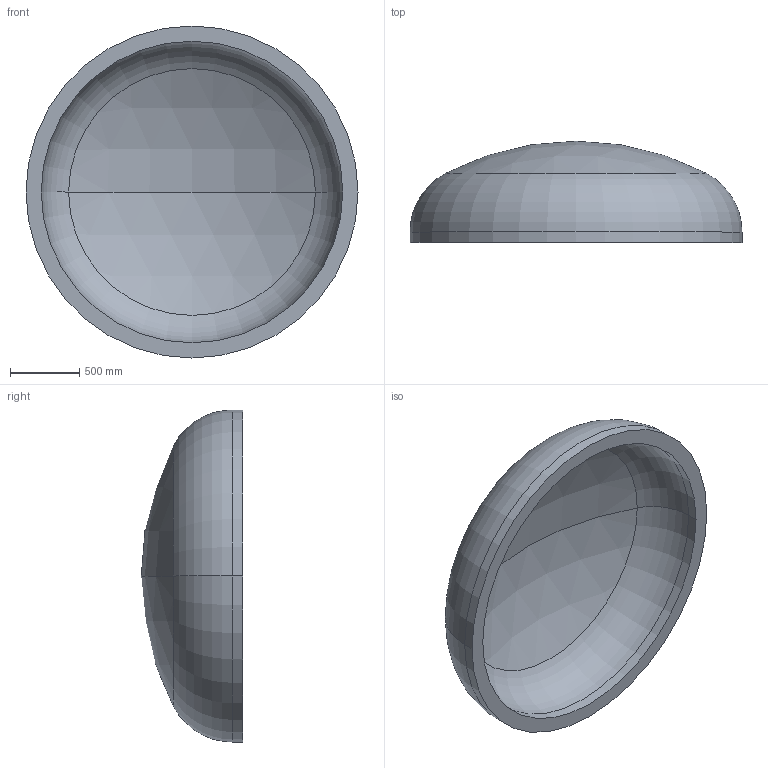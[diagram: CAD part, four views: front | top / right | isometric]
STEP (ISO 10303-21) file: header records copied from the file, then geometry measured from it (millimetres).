
FILE_DESCRIPTION (( 'STEP AP203' ), '1' );
FILE_NAME ('DIN 28013 Korbbogenform_-_Boden DIN 28013 - 2400 x 75 - I - s=110.step', '2016-07-01T15:44:58', ( '' ), ( '' ), 'SwSTEP 2.0', 'SolidWorks 2013', '' );
FILE_SCHEMA (( 'CONFIG_CONTROL_DESIGN' ));
Length unit declared in the file: millimetre
Products named in the file (1): DIN 28013 Korbbogenform_-_Boden DIN 28013 - 2400 x 75 - I - s=110
Bounding box: 2400 x 732.37 x 2400 mm (x, y, z)
Volume: 709152192.1 mm3; surface area: 13710381.8 mm2
Topology: 1 solids, 1 shells, 13 faces, 24 edges, 14 vertices
Faces by surface type: torus 4, cylinder 4, sphere 4, plane 1
Entity records: 407 total; most frequent: DIRECTION 72, CARTESIAN_POINT 52, ORIENTED_EDGE 48, AXIS2_PLACEMENT_3D 34, EDGE_CURVE 24, CIRCLE 20, EDGE_LOOP 14, VERTEX_POINT 14
